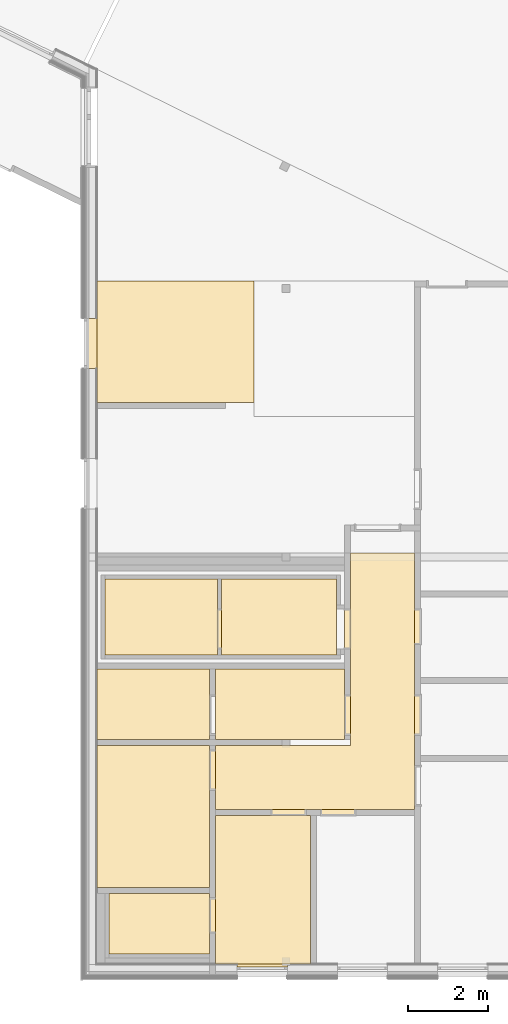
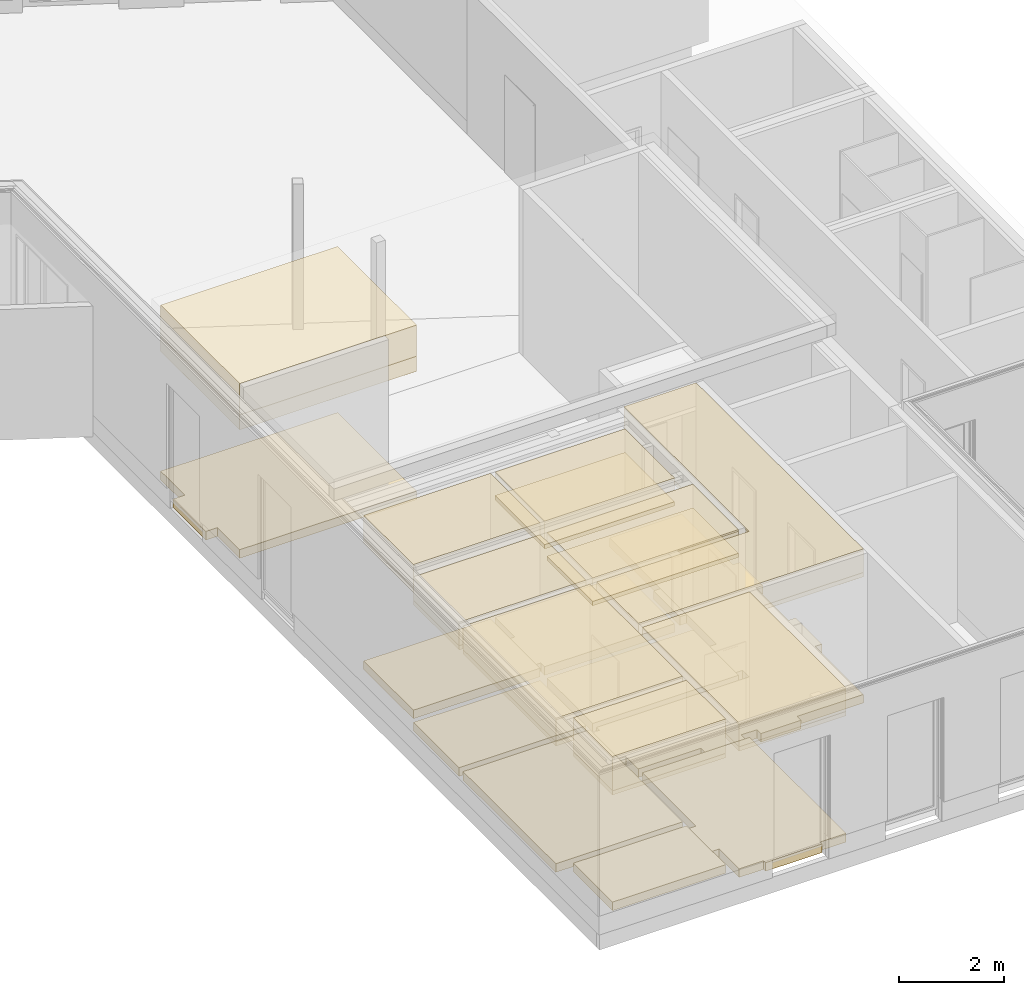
# One storey, part 21 of 23: 37 coverings.
"""IFC4 building model written with IfcOpenShell, lengths in metres."""

import ifcopenshell
import ifcopenshell.guid

model = None  # the IFC model being written
_history = None  # IfcOwnerHistory: only IFC2X3 demands one
_inside = {}  # id of a spatial element -> (the spatial element, [elements in it])
_under = {}  # id of a project, library or spatial element -> (it, [spatial elements below it])
_declared = {}  # id of a project -> (the project, [libraries it declares])
_typed = {}  # id of a type object -> (the type object, [elements of that type])
_made_of = {}  # id of a material, layer set ... -> (it, [elements and type objects made of it])


def new_model(schema):
    """Start an empty IFC model of exactly this schema.

    Asked for "IFC4X3", IfcOpenShell would pick the latest addendum, in which some entities
    have other attributes; the version numbers below select the first issue.
    IFC2X3 requires an IfcOwnerHistory on every rooted entity: one is made here for all.
    """
    global model, _history
    if schema == "IFC4X3":
        model = ifcopenshell.file(schema_version=(4, 3, 0, 0))
    else:
        model = ifcopenshell.file(schema=schema)
    _inside.clear()
    _under.clear()
    _declared.clear()
    _typed.clear()
    _made_of.clear()
    _history = None
    if model.schema == "IFC2X3":
        org = make("IfcOrganization", Name="unknown")
        user = make(
            "IfcPersonAndOrganization",
            ThePerson=make("IfcPerson", FamilyName="unknown"),
            TheOrganization=org,
        )
        app = make(
            "IfcApplication",
            ApplicationDeveloper=org,
            Version="unknown",
            ApplicationFullName="unknown",
            ApplicationIdentifier="unknown",
        )
        _history = make(
            "IfcOwnerHistory",
            OwningUser=user,
            OwningApplication=app,
            ChangeAction="ADDED",
            CreationDate=0,
        )
    return model


def make(cls, **values):
    """One entity of the class cls with the attributes given. An attribute that is None is left unset."""
    return model.create_entity(
        cls, **{name: value for name, value in values.items() if value is not None}
    )


def entity(cls, *values):
    """Any entity or typed value of the class cls, its attributes in the order of the schema. None: left unset."""
    e = model.create_entity(cls)
    for i, value in enumerate(values):
        if value is not None:
            e[i] = value
    return e


def rooted(cls, **values):
    """An entity with a GlobalId (a new one), such as an element, a storey or a relation."""
    return make(cls, GlobalId=ifcopenshell.guid.new(), OwnerHistory=_history, **values)


def si_unit(unit_type, name, prefix=None):
    """IfcSIUnit, for example si_unit("LENGTHUNIT", "METRE", prefix="MILLI")."""
    return make("IfcSIUnit", UnitType=unit_type, Prefix=prefix, Name=name)


def converted_unit(unit_type, name, factor, base, dimensions=None, offset=None):
    """IfcConversionBasedUnit, such as the inch: factor (a typed value) times the base unit."""
    return make(
        "IfcConversionBasedUnit"
        if offset is None
        else "IfcConversionBasedUnitWithOffset",
        ConversionOffset=offset,
        Dimensions=None
        if dimensions is None
        else entity("IfcDimensionalExponents", *dimensions),
        UnitType=unit_type,
        Name=name,
        ConversionFactor=make(
            "IfcMeasureWithUnit", ValueComponent=factor, UnitComponent=base
        ),
    )


def derived_unit(unit_type, elements):
    """IfcDerivedUnit: a product of units, each with its exponent."""
    return make(
        "IfcDerivedUnit",
        Elements=[
            make("IfcDerivedUnitElement", Unit=unit, Exponent=power)
            for unit, power in elements
        ],
        UnitType=unit_type,
    )


def assignment(units):
    """IfcUnitAssignment: the units of a project."""
    return None if units is None else make("IfcUnitAssignment", Units=units)


def point(xyz):
    """IfcCartesianPoint."""
    return None if xyz is None else make("IfcCartesianPoint", Coordinates=xyz)


def direction(xyz):
    """IfcDirection."""
    return None if xyz is None else make("IfcDirection", DirectionRatios=xyz)


def frame(location, z_axis=None, x_axis=None):
    """IfcAxis2Placement3D, a coordinate frame: its origin and axes. An axis left out is left unset."""
    return make(
        "IfcAxis2Placement3D",
        Location=point(location),
        Axis=direction(z_axis),
        RefDirection=direction(x_axis),
    )


def frame_2d(location, x_axis=None):
    """IfcAxis2Placement2D, a coordinate frame in the plane: its origin and x axis."""
    return make(
        "IfcAxis2Placement2D", Location=point(location), RefDirection=direction(x_axis)
    )


def origin():
    """The frame at (0, 0, 0) with its axes left unset."""
    return frame((0.0, 0.0, 0.0))


def origin_with_axes():
    """The frame at (0, 0, 0) with the z axis (0, 0, 1) and the x axis (1, 0, 0) written out."""
    return frame((0.0, 0.0, 0.0), z_axis=(0.0, 0.0, 1.0), x_axis=(1.0, 0.0, 0.0))


def place(relative_to, where):
    """IfcLocalPlacement: puts the frame where relative to a parent placement (None: the world)."""
    return make(
        "IfcLocalPlacement", PlacementRelTo=relative_to, RelativePlacement=where
    )


def context(
    kind, dimensions, precision=None, world=None, true_north=None, identifier=None
):
    """IfcGeometricRepresentationContext, for example the 3D "Model" context."""
    return make(
        "IfcGeometricRepresentationContext",
        ContextIdentifier=identifier,
        ContextType=kind,
        CoordinateSpaceDimension=dimensions,
        Precision=precision,
        WorldCoordinateSystem=world,
        TrueNorth=true_north,
    )


def subcontext(parent, identifier, kind, view, scale=None):
    """IfcGeometricRepresentationSubContext, for example "Body" below "Model"."""
    return make(
        "IfcGeometricRepresentationSubContext",
        ContextIdentifier=identifier,
        ContextType=kind,
        ParentContext=parent,
        TargetScale=scale,
        TargetView=view,
    )


def project(units=None, contexts=None):
    """IfcProject with its units and contexts."""
    return rooted(
        "IfcProject",
        Name="project",
        RepresentationContexts=contexts,
        UnitsInContext=assignment(units),
    )


def spatial(cls, under=None, at=None, **own):
    """A site, building, storey or space (cls), placed at a placement, below another one or the project."""
    s = rooted(cls, ObjectPlacement=at, **own)
    if under is not None:
        _under.setdefault(under.id(), (under, []))[1].append(s)
    return s


def polyline(points):
    """IfcPolyline through the points."""
    return make("IfcPolyline", Points=[point(p) for p in points])


def profile(cls, at=None, kind="AREA", **sizes):
    """A parametric profile (cls). Its sizes go by their IFC names, for example OverallWidth=200.0."""
    return make(cls, ProfileType=kind, Position=at, **sizes)


def rectangle(**sizes):
    """IfcRectangleProfileDef."""
    return profile("IfcRectangleProfileDef", **sizes)


def outline(outer, holes=None, kind="AREA"):
    """IfcArbitraryClosedProfileDef: a profile drawn as a closed curve; with holes, ...WithVoids."""
    if holes is None:
        return make("IfcArbitraryClosedProfileDef", ProfileType=kind, OuterCurve=outer)
    return make(
        "IfcArbitraryProfileDefWithVoids",
        ProfileType=kind,
        OuterCurve=outer,
        InnerCurves=holes,
    )


def extrude(swept, where, along, depth):
    """IfcExtrudedAreaSolid: the profile swept, set in the frame where, extruded along a direction by depth."""
    return make(
        "IfcExtrudedAreaSolid",
        SweptArea=swept,
        Position=where,
        ExtrudedDirection=direction(along),
        Depth=depth,
    )


def shape(context_of_items, identifier, shape_type, items):
    """IfcShapeRepresentation: the items that make up one representation, for example the "Body"."""
    return make(
        "IfcShapeRepresentation",
        ContextOfItems=context_of_items,
        RepresentationIdentifier=identifier,
        RepresentationType=shape_type,
        Items=items,
    )


def material(Name=None, Category=None):
    """IfcMaterial."""
    return make("IfcMaterial", Name=Name, Category=Category)


def layer(
    of_material, thickness, ventilated=None, Name=None, Category=None, Priority=None
):
    """IfcMaterialLayer: one layer of a wall or slab, of a material (None: an air gap)."""
    return make(
        "IfcMaterialLayer",
        Material=of_material,
        LayerThickness=thickness,
        IsVentilated=ventilated,
        Name=Name,
        Category=Category,
        Priority=Priority,
    )


def layer_set(layers, Name=None):
    """IfcMaterialLayerSet."""
    return make("IfcMaterialLayerSet", MaterialLayers=layers, LayerSetName=Name)


def layer_usage(for_layer_set, set_direction, sense, offset, extent=None):
    """IfcMaterialLayerSetUsage: how a layer set lies in its element."""
    return make(
        "IfcMaterialLayerSetUsage",
        ForLayerSet=for_layer_set,
        LayerSetDirection=set_direction,
        DirectionSense=sense,
        OffsetFromReferenceLine=offset,
        ReferenceExtent=extent,
    )


def made_of(thing, what):
    """Note that an element or type object is made of a material, layer set ...; save() writes the relation."""
    if what is not None:
        _made_of.setdefault(what.id(), (what, []))[1].append(thing)
    return thing


def element(
    cls,
    number,
    at=None,
    inside=None,
    cuts=None,
    type_object=None,
    material=None,
    context=None,
    identifier="Body",
    shape_type=None,
    held_by="IfcProductDefinitionShape",
    body=None,
    shapes=None,
    **own,
):
    """One element of the class cls, such as IfcWall. Its Tag is "e" and its number.

    at: its placement. inside: the storey or other place that contains it. cuts: it is an
    opening in that element (IfcRelVoidsElement). A single representation is given by context,
    identifier, shape_type and body (its items); several are given by shapes. held_by: the class
    of the entity that holds the representations. save() writes the other relations.
    """
    e = rooted(cls, Tag="e%d" % number, ObjectPlacement=at, **own)
    if body is not None:
        shapes = [shape(context, identifier, shape_type, body)]
    if shapes is not None:
        e.Representation = make(held_by, Representations=shapes)
    if inside is not None:
        _inside.setdefault(inside.id(), (inside, []))[1].append(e)
    if cuts is not None:
        rooted(
            "IfcRelVoidsElement", RelatingBuildingElement=cuts, RelatedOpeningElement=e
        )
    if type_object is not None:
        _typed.setdefault(type_object.id(), (type_object, []))[1].append(e)
    return made_of(e, material)


def aggregate(whole, parts):
    """IfcRelAggregates: a whole, such as a stair, and the parts it consists of."""
    return rooted("IfcRelAggregates", RelatingObject=whole, RelatedObjects=parts)


def save(model, path):
    """Write the relations noted so far, then the file.

    IfcRelAggregates (storeys below a building ...), IfcRelContainedInSpatialStructure (elements
    in a storey), IfcRelDefinesByType, IfcRelAssociatesMaterial and IfcRelDeclares: one each for
    every whole, place, type object, material and project.
    """
    for whole, parts in _under.values():
        aggregate(whole, parts)
    for where, things in _inside.values():
        rooted(
            "IfcRelContainedInSpatialStructure",
            RelatedElements=things,
            RelatingStructure=where,
        )
    for kind, things in _typed.values():
        rooted("IfcRelDefinesByType", RelatedObjects=things, RelatingType=kind)
    for what, things in _made_of.values():
        rooted("IfcRelAssociatesMaterial", RelatedObjects=things, RelatingMaterial=what)
    for by, libraries in _declared.values():
        rooted("IfcRelDeclares", RelatingContext=by, RelatedDefinitions=libraries)
    model.write(path)


model = new_model("IFC4")

# Units and contexts
model_context = context("Model", 3, precision=1e-05, world=origin())
body_context = subcontext(model_context, "Body", "Model", "MODEL_VIEW")
ifc_project = project(units=[si_unit("LENGTHUNIT", "METRE"), si_unit("AREAUNIT", "SQUARE_METRE"), si_unit("VOLUMEUNIT", "CUBIC_METRE"), si_unit("MASSUNIT", "GRAM", prefix="KILO"), converted_unit("PLANEANGLEUNIT", "DEGREE", entity("IfcPlaneAngleMeasure", 0.0174532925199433), si_unit("PLANEANGLEUNIT", "RADIAN"), dimensions=[0, 0, 0, 0, 0, 0, 0]), derived_unit("THERMALTRANSMITTANCEUNIT", [(si_unit("POWERUNIT", "WATT"), 1), (si_unit("THERMODYNAMICTEMPERATUREUNIT", "KELVIN"), -1), (si_unit("LENGTHUNIT", "METRE"), -2)]), derived_unit("VOLUMETRICFLOWRATEUNIT", [(si_unit("LENGTHUNIT", "METRE"), 3), (converted_unit("TIMEUNIT", "hour", entity("IfcTimeMeasure", 3600.0), si_unit("TIMEUNIT", "SECOND"), dimensions=[0, 0, 1, 0, 0, 0, 0]), -1), (si_unit("LENGTHUNIT", "METRE"), -1)])], contexts=[model_context])

# Site, building, storey, space
site_placement = place(None, origin())
site = spatial("IfcSite", under=ifc_project, at=site_placement, Name="Psychiatrie Neubau Wunstorf", CompositionType="ELEMENT")
building_placement = place(site_placement, origin())
building = spatial("IfcBuilding", under=site, at=building_placement, Name="Neubau H1 Sozialzentrum", CompositionType="ELEMENT")
storey_placement = place(building_placement, frame((0.0, 0.0, 0.7)))
storey = spatial("IfcBuildingStorey", under=building, at=storey_placement, Name="H1 Ebene 0", CompositionType="ELEMENT", Elevation=0.7)
space_1_placement = place(storey_placement, frame((-12.9120330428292, 8.11232452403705, -0.2)))
space_1 = spatial("IfcSpace", under=storey, at=space_1_placement, Name="WUN-H1-E00", CompositionType="ELEMENT")

# Coverings
ifc_material_1 = material()
ifc_layer_1 = layer(ifc_material_1, 0.036)
ifc_layer_set_1 = layer_set([ifc_layer_1])
ifc_layer_usage_1 = layer_usage(ifc_layer_set_1, "AXIS3", "POSITIVE", 0.0)
covering_1_placement = place(space_1_placement, frame((0.0, 8.80853868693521e-07, 3.6)))
element("IfcCovering", 1, at=covering_1_placement, inside=space_1, material=ifc_layer_usage_1, Name="Gipsfaserplatten 2-lagig (BSK)", PredefinedType="CEILING", context=body_context, shape_type="SweptSolid", body=[
    extrude(outline(polyline([(4.97050662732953, 6.39992085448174), (0.0, 6.39992085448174), (0.0, 4.79985911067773), (3.37237447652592, 4.79985911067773), (3.37237447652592, 0.0), (4.97050662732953, 0.0), (4.97050662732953, 6.39992085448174)])), frame((0.0, 6.39992085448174, 0.0), z_axis=(0.0, 0.0, -1.0), x_axis=(1.0, 0.0, 0.0)), (0.0, 0.0, 1.0), 0.036),
])
ifc_material_2 = material(Name="Installationshöhe")
ifc_layer_2 = layer(ifc_material_2, 0.514)
ifc_layer_set_2 = layer_set([ifc_layer_2])
ifc_layer_usage_2 = layer_usage(ifc_layer_set_2, "AXIS3", "POSITIVE", 0.0)
covering_2_placement = place(space_1_placement, frame((0.0, 8.80853868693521e-07, 3.564)))
element("IfcCovering", 2, at=covering_2_placement, inside=space_1, material=ifc_layer_usage_2, Name="Gipsfaserplatten 2-lagig (BSK)", PredefinedType="CEILING", context=body_context, shape_type="SweptSolid", body=[
    extrude(outline(polyline([(4.97050662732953, 6.39992085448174), (0.0, 6.39992085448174), (0.0, 4.79985911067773), (3.37237447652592, 4.79985911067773), (3.37237447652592, 0.0), (4.97050662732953, 0.0), (4.97050662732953, 6.39992085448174)])), frame((0.0, 6.39992085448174, 0.0), z_axis=(0.0, 0.0, -1.0), x_axis=(1.0, 0.0, 0.0)), (0.0, 0.0, 1.0), 0.514),
])
ifc_material_3 = material(Name="A1")
ifc_layer_3 = layer(ifc_material_3, 0.1)
ifc_layer_set_3 = layer_set([ifc_layer_3])
ifc_layer_usage_3 = layer_usage(ifc_layer_set_3, "AXIS3", "POSITIVE", 0.0)
covering_3_placement = place(space_1_placement, frame((0.0, 8.80853868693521e-07, 3.05)))
element("IfcCovering", 3, at=covering_3_placement, inside=space_1, material=ifc_layer_usage_3, Name="Gipsfaserplatten 2-lagig (BSK)", PredefinedType="CEILING", context=body_context, shape_type="SweptSolid", body=[
    extrude(outline(polyline([(4.97050662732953, 6.39992085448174), (0.0, 6.39992085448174), (0.0, 4.79985911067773), (3.37237447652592, 4.79985911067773), (3.37237447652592, 0.0), (4.97050662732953, 0.0), (4.97050662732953, 6.39992085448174)])), frame((0.0, 6.39992085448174, 0.0), z_axis=(0.0, 0.0, -1.0), x_axis=(1.0, 0.0, 0.0)), (0.0, 0.0, 1.0), 0.1),
])
ifc_material_4 = material(Name="D1")
ifc_layer_4 = layer(ifc_material_4, 0.001)
ifc_layer_set_4 = layer_set([ifc_layer_4])
ifc_layer_usage_4 = layer_usage(ifc_layer_set_4, "AXIS3", "POSITIVE", 0.0)
covering_4_placement = place(space_1_placement, frame((0.0, 8.80853868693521e-07, 2.95)))
element("IfcCovering", 4, at=covering_4_placement, inside=space_1, material=ifc_layer_usage_4, Name="Gipsfaserplatten 2-lagig (BSK)", PredefinedType="CEILING", context=body_context, shape_type="SweptSolid", body=[
    extrude(outline(polyline([(4.97050662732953, 6.39992085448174), (0.0, 6.39992085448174), (0.0, 4.79985911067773), (3.37237447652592, 4.79985911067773), (3.37237447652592, 0.0), (4.97050662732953, 0.0), (4.97050662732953, 6.39992085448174)])), frame((0.0, 6.39992085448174, 0.0), z_axis=(0.0, 0.0, -1.0), x_axis=(1.0, 0.0, 0.0)), (0.0, 0.0, 1.0), 0.001),
])
ifc_material_5 = material(Name="Ku2")
ifc_layer_5 = layer(ifc_material_5, 0.2)
ifc_layer_set_5 = layer_set([ifc_layer_5])
ifc_layer_usage_5 = layer_usage(ifc_layer_set_5, "AXIS3", "POSITIVE", 0.0)
covering_5_placement = place(space_1_placement, frame((-0.149999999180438, -0.149999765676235, 0.0)))
element("IfcCovering", 5, at=covering_5_placement, inside=space_1, material=ifc_layer_usage_5, Name="PVC Bahnenware Uni", PredefinedType="FLOORING", context=body_context, shape_type="SweptSolid", body=[
    extrude(rectangle(XDim=0.15, YDim=1.01000000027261, at=frame_2d((-0.0750000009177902, -0.505), x_axis=(-1.0, 1.81740081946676e-09))), frame((0.150000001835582, 1.64003196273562, 0.0), z_axis=(0.0, 0.0, 1.0), x_axis=(1.0, 0.0, 0.0)), (0.0, 0.0, 1.0), 0.2),
    extrude(rectangle(XDim=0.150000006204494, YDim=0.885, at=frame_2d((0.442500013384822, -0.0749999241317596), x_axis=(1.78464377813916e-07, -0.999999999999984))), frame((2.76753223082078, 0.150000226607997, 0.0), z_axis=(0.0, 0.0, 1.0), x_axis=(1.0, 0.0, 0.0)), (0.0, 0.0, 1.0), 0.2),
    extrude(rectangle(XDim=0.150000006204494, YDim=0.885, at=frame_2d((0.442500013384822, -0.0749999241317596), x_axis=(1.78464377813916e-07, -0.999999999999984))), frame((1.53253223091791, 0.150000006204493, 0.0), z_axis=(0.0, 0.0, 1.0), x_axis=(1.0, 0.0, 0.0)), (0.0, 0.0, 1.0), 0.2),
    extrude(rectangle(XDim=0.150000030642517, YDim=0.885000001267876, at=frame_2d((0.07499993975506, 0.442500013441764), x_axis=(0.999999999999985, 1.70771068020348e-07))), frame((5.12050690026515, 4.26196041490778, 0.0), z_axis=(0.0, 0.0, 1.0), x_axis=(1.0, 0.0, 0.0)), (0.0, 0.0, 1.0), 0.2),
    extrude(rectangle(XDim=0.150000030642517, YDim=1.01000000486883, at=frame_2d((0.0749999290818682, 0.505000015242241), x_axis=(0.999999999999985, 1.70771068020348e-07))), frame((5.12050728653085, 2.00006844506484, 0.0), z_axis=(0.0, 0.0, 1.0), x_axis=(1.0, 0.0, 0.0)), (0.0, 0.0, 1.0), 0.2),
    extrude(rectangle(XDim=0.149999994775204, YDim=1.01000000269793, at=frame_2d((0.0749998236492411, 0.505000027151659), x_axis=(0.999999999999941, 3.44036355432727e-07))), frame((3.37237604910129, 2.00006787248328, 0.0), z_axis=(0.0, 0.0, 1.0), x_axis=(1.0, 0.0, 0.0)), (0.0, 0.0, 1.0), 0.2),
    extrude(outline(polyline([(3.37237613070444, 1.60007018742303), (0.0, 1.60007018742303), (0.0, 0.0), (4.97050663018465, 8.87058364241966e-07), (4.97050641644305, 6.94992185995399), (3.37237431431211, 6.94992185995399), (3.37237613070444, 1.60007018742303)])), frame((0.149999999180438, 0.149999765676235, 0.0), z_axis=(0.0, 0.0, 1.0), x_axis=(1.0, 0.0, 0.0)), (0.0, 0.0, 1.0), 0.2),
])

# Space
space_2_placement = place(storey_placement, frame((-15.5625267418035, 4.51232136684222, -0.2)))
space_2 = spatial("IfcSpace", under=storey, at=space_2_placement, Name="WUN-H1-E00", CompositionType="ELEMENT")

# Coverings
ifc_material_6 = material(Name="Fl1")
ifc_layer_6 = layer(ifc_material_6, 0.2)
ifc_layer_set_6 = layer_set([ifc_layer_6])
ifc_layer_usage_6 = layer_usage(ifc_layer_set_6, "AXIS3", "POSITIVE", 0.0)
covering_6_placement = place(space_2_placement, origin())
element("IfcCovering", 6, at=covering_6_placement, inside=space_2, material=ifc_layer_usage_6, Name="Fliesen", PredefinedType="FLOORING", context=body_context, shape_type="SweptSolid", body=[
    extrude(rectangle(XDim=2.50049368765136, YDim=1.49999999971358, at=frame_2d((-1.25024681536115, -0.749999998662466), x_axis=(-1.0, 9.55268284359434e-10))), frame((2.50049368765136, 1.49999999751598, 0.0), z_axis=(0.0, 0.0, 1.0), x_axis=(1.0, 0.0, 0.0)), (0.0, 0.0, 1.0), 0.2),
])
ifc_material_7 = material()
ifc_layer_7 = layer(ifc_material_7, 0.036)
ifc_layer_set_7 = layer_set([ifc_layer_7])
ifc_layer_usage_7 = layer_usage(ifc_layer_set_7, "AXIS3", "POSITIVE", 0.0)
covering_7_placement = place(space_2_placement, frame((0.0, 0.0, 3.6)))
element("IfcCovering", 7, at=covering_7_placement, inside=space_2, material=ifc_layer_usage_7, Name="Gipsfaserplatten 2-lagig (BSK)", PredefinedType="CEILING", context=body_context, shape_type="SweptSolid", body=[
    extrude(rectangle(XDim=2.50049368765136, YDim=1.49999999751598, at=frame_2d((1.25024684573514, 0.74999999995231), x_axis=(1.0, 9.55268284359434e-10))), frame((0.0, 1.49999999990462, 0.0), z_axis=(0.0, 0.0, -1.0), x_axis=(1.0, 0.0, 0.0)), (0.0, 0.0, 1.0), 0.036),
])
ifc_material_8 = material(Name="Installationshöhe")
ifc_layer_8 = layer(ifc_material_8, 0.764)
ifc_layer_set_8 = layer_set([ifc_layer_8], Name="Reference")
ifc_layer_usage_8 = layer_usage(ifc_layer_set_8, "AXIS3", "POSITIVE", 0.0)
covering_8_placement = place(space_2_placement, frame((0.0, 0.0, 3.564)))
element("IfcCovering", 8, at=covering_8_placement, inside=space_2, material=ifc_layer_usage_8, Name="Gipsfaserplatten 2-lagig (BSK)", PredefinedType="CEILING", context=body_context, shape_type="SweptSolid", body=[
    extrude(rectangle(XDim=2.50049368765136, YDim=1.49999999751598, at=frame_2d((1.25024684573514, 0.74999999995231), x_axis=(1.0, 9.55268284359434e-10))), frame((0.0, 1.49999999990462, 0.0), z_axis=(0.0, 0.0, -1.0), x_axis=(1.0, 0.0, 0.0)), (0.0, 0.0, 1.0), 0.764),
])
ifc_material_9 = material(Name="E3")
ifc_layer_9 = layer(ifc_material_9, 0.1)
ifc_layer_set_9 = layer_set([ifc_layer_9])
ifc_layer_usage_9 = layer_usage(ifc_layer_set_9, "AXIS3", "POSITIVE", 0.0)
covering_9_placement = place(space_2_placement, frame((0.0, 0.0, 2.8)))
element("IfcCovering", 9, at=covering_9_placement, inside=space_2, material=ifc_layer_usage_9, Name="Rasterdecke", PredefinedType="CEILING", context=body_context, shape_type="SweptSolid", body=[
    extrude(rectangle(XDim=2.50049368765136, YDim=1.49999999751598, at=frame_2d((1.25024684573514, 0.74999999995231), x_axis=(1.0, 9.55268284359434e-10))), frame((0.0, 1.49999999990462, 0.0), z_axis=(0.0, 0.0, -1.0), x_axis=(1.0, 0.0, 0.0)), (0.0, 0.0, 1.0), 0.1),
])

# Space
space_3_placement = place(storey_placement, frame((-12.9120330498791, 4.26232136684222, -0.2)))
space_3 = spatial("IfcSpace", under=storey, at=space_3_placement, Name="WUN-H1-E00", CompositionType="ELEMENT")

# Coverings
ifc_material_10 = material(Name="Ku2")
ifc_layer_10 = layer(ifc_material_10, 0.2)
ifc_layer_set_10 = layer_set([ifc_layer_10])
ifc_layer_usage_10 = layer_usage(ifc_layer_set_10, "AXIS3", "POSITIVE", 0.0)
covering_10_placement = place(space_3_placement, frame((-0.149999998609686, -0.0750000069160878, 0.0)))
element("IfcCovering", 10, at=covering_10_placement, inside=space_3, material=ifc_layer_usage_10, Name="PVC Bahnenware Uni", PredefinedType="FLOORING", context=body_context, shape_type="SweptSolid", body=[
    extrude(rectangle(XDim=1.25, YDim=0.0750000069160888, at=frame_2d((-0.625, -0.0375000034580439), x_axis=(-1.0, 7.27595761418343e-16))), frame((1.94350652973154, 0.0750000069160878, 0.0), z_axis=(2.27373675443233e-17, 3.7895609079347e-16, 1.0), x_axis=(1.0, 0.0, 0.0)), (0.0, -3.7895609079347e-16, 1.0), 0.2),
    extrude(rectangle(XDim=0.15, YDim=0.885000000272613, at=frame_2d((-0.0750000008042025, -0.442500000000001), x_axis=(-1.0, 1.81740688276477e-09))), frame((0.150000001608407, 1.72499998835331, 0.0), z_axis=(0.0, 0.0, 1.0), x_axis=(1.0, 0.0, 0.0)), (0.0, 0.0, 1.0), 0.2),
    extrude(rectangle(XDim=3.70000314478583, YDim=2.36753226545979, at=frame_2d((1.18376612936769, -1.85000157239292), x_axis=(-1.81740582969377e-09, -1.0))), frame((0.150000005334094, 3.77500315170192, 0.0), z_axis=(0.0, 0.0, 1.0), x_axis=(1.0, 0.0, 0.0)), (0.0, 0.0, 1.0), 0.2),
])
ifc_material_11 = material()
ifc_layer_11 = layer(ifc_material_11, 0.036)
ifc_layer_set_11 = layer_set([ifc_layer_11])
ifc_layer_usage_11 = layer_usage(ifc_layer_set_11, "AXIS3", "POSITIVE", 0.0)
covering_11_placement = place(space_3_placement, frame((0.0, 0.0, 3.6)))
element("IfcCovering", 11, at=covering_11_placement, inside=space_3, material=ifc_layer_usage_11, Name="Gipsfaserplatten 2-lagig (BSK)", PredefinedType="CEILING", context=body_context, shape_type="SweptSolid", body=[
    extrude(rectangle(XDim=3.70000314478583, YDim=2.36753225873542, at=frame_2d((1.1837661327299, -1.850001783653), x_axis=(1.81740582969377e-09, -1.0))), frame((0.0, 0.0, 0.0), z_axis=(0.0, 0.0, -1.0), x_axis=(1.0, 0.0, 0.0)), (0.0, 0.0, 1.0), 0.036),
])
ifc_material_12 = material(Name="Installationshöhe")
ifc_layer_12 = layer(ifc_material_12, 0.514)
ifc_layer_set_12 = layer_set([ifc_layer_12], Name="Reference")
ifc_layer_usage_12 = layer_usage(ifc_layer_set_12, "AXIS3", "POSITIVE", 0.0)
covering_12_placement = place(space_3_placement, frame((0.0, 0.0, 3.564)))
element("IfcCovering", 12, at=covering_12_placement, inside=space_3, material=ifc_layer_usage_12, Name="Gipsfaserplatten 2-lagig (BSK)", PredefinedType="CEILING", context=body_context, shape_type="SweptSolid", body=[
    extrude(rectangle(XDim=3.70000314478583, YDim=2.36753225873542, at=frame_2d((1.1837661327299, -1.850001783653), x_axis=(1.81740582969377e-09, -1.0))), frame((0.0, 0.0, 0.0), z_axis=(0.0, 0.0, -1.0), x_axis=(1.0, 0.0, 0.0)), (0.0, 0.0, 1.0), 0.514),
])
ifc_material_13 = material(Name="E3")
ifc_layer_13 = layer(ifc_material_13, 0.1)
ifc_layer_set_13 = layer_set([ifc_layer_13])
ifc_layer_usage_13 = layer_usage(ifc_layer_set_13, "AXIS3", "POSITIVE", 0.0)
covering_13_placement = place(space_3_placement, frame((0.0, 0.0, 3.05)))
element("IfcCovering", 13, at=covering_13_placement, inside=space_3, material=ifc_layer_usage_13, Name="Rasterdecke", PredefinedType="CEILING", context=body_context, shape_type="SweptSolid", body=[
    extrude(rectangle(XDim=3.70000314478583, YDim=2.36753225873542, at=frame_2d((1.1837661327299, -1.850001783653), x_axis=(1.81740582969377e-09, -1.0))), frame((0.0, 0.0, 0.0), z_axis=(0.0, 0.0, -1.0), x_axis=(1.0, 0.0, 0.0)), (0.0, 0.0, 1.0), 0.1),
])

# Space
space_4_placement = place(storey_placement, frame((-15.8625266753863, 6.16232136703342, -0.2)))
space_4 = spatial("IfcSpace", under=storey, at=space_4_placement, Name="WUN-H1-E00", CompositionType="ELEMENT")

# Coverings
ifc_material_14 = material(Name="Ku2")
ifc_layer_14 = layer(ifc_material_14, 0.2)
ifc_layer_set_14 = layer_set([ifc_layer_14])
ifc_layer_usage_14 = layer_usage(ifc_layer_set_14, "AXIS3", "POSITIVE", 0.0)
covering_14_placement = place(space_4_placement, origin())
element("IfcCovering", 14, at=covering_14_placement, inside=space_4, material=ifc_layer_usage_14, Name="PVC Bahnenware Uni", PredefinedType="FLOORING", context=body_context, shape_type="SweptSolid", body=[
    extrude(rectangle(XDim=3.550073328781, YDim=2.80115730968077, at=frame_2d((1.40057865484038, -1.77503667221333), x_axis=(-5.12380797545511e-16, -1.0))), frame((0.0, 3.55007334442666, 0.0), z_axis=(0.0, 0.0, 1.0), x_axis=(1.0, 0.0, 0.0)), (0.0, 0.0, 1.0), 0.2),
])
ifc_material_15 = material()
ifc_layer_15 = layer(ifc_material_15, 0.036)
ifc_layer_set_15 = layer_set([ifc_layer_15])
ifc_layer_usage_15 = layer_usage(ifc_layer_set_15, "AXIS3", "POSITIVE", 0.0)
covering_15_placement = place(space_4_placement, frame((0.0, 0.0, 3.6)))
element("IfcCovering", 15, at=covering_15_placement, inside=space_4, material=ifc_layer_usage_15, Name="Gipsfaserplatten 2-lagig (BSK)", PredefinedType="CEILING", context=body_context, shape_type="SweptSolid", body=[
    extrude(rectangle(XDim=3.550073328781, YDim=2.80115730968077, at=frame_2d((1.40057865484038, -1.7750366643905), x_axis=(5.12380797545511e-16, -1.0))), frame((0.0, 1.56456599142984e-08, 0.0), z_axis=(0.0, 0.0, -1.0), x_axis=(1.0, 0.0, 0.0)), (0.0, 0.0, 1.0), 0.036),
])
ifc_material_16 = material(Name="Installationshöhe")
ifc_layer_16 = layer(ifc_material_16, 0.514)
ifc_layer_set_16 = layer_set([ifc_layer_16], Name="Reference")
ifc_layer_usage_16 = layer_usage(ifc_layer_set_16, "AXIS3", "POSITIVE", 0.0)
covering_16_placement = place(space_4_placement, frame((0.0, 0.0, 3.564)))
element("IfcCovering", 16, at=covering_16_placement, inside=space_4, material=ifc_layer_usage_16, Name="Gipsfaserplatten 2-lagig (BSK)", PredefinedType="CEILING", context=body_context, shape_type="SweptSolid", body=[
    extrude(rectangle(XDim=3.550073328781, YDim=2.80115730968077, at=frame_2d((1.40057865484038, -1.7750366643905), x_axis=(5.12380797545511e-16, -1.0))), frame((0.0, 1.56456599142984e-08, 0.0), z_axis=(0.0, 0.0, -1.0), x_axis=(1.0, 0.0, 0.0)), (0.0, 0.0, 1.0), 0.514),
])
ifc_material_17 = material(Name="E3")
ifc_layer_17 = layer(ifc_material_17, 0.1)
ifc_layer_set_17 = layer_set([ifc_layer_17])
ifc_layer_usage_17 = layer_usage(ifc_layer_set_17, "AXIS3", "POSITIVE", 0.0)
covering_17_placement = place(space_4_placement, frame((0.0, 0.0, 3.05)))
element("IfcCovering", 17, at=covering_17_placement, inside=space_4, material=ifc_layer_usage_17, Name="Rasterdecke", PredefinedType="CEILING", context=body_context, shape_type="SweptSolid", body=[
    extrude(rectangle(XDim=3.550073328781, YDim=2.80115730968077, at=frame_2d((1.40057865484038, -1.7750366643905), x_axis=(5.12380797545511e-16, -1.0))), frame((0.0, 1.56456599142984e-08, 0.0), z_axis=(0.0, 0.0, -1.0), x_axis=(1.0, 0.0, 0.0)), (0.0, 0.0, 1.0), 0.1),
])

# Space
space_5_placement = place(storey_placement, frame((-15.8625266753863, 9.86239268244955, -0.2)))
space_5 = spatial("IfcSpace", under=storey, at=space_5_placement, Name="WUN-H1-E00", CompositionType="ELEMENT")

# Coverings
ifc_material_18 = material(Name="Ku2")
ifc_layer_18 = layer(ifc_material_18, 0.2)
ifc_layer_set_18 = layer_set([ifc_layer_18])
ifc_layer_usage_18 = layer_usage(ifc_layer_set_18, "AXIS3", "POSITIVE", 0.0)
covering_18_placement = place(space_5_placement, origin())
element("IfcCovering", 18, at=covering_18_placement, inside=space_5, material=ifc_layer_usage_18, Name="PVC Bahnenware Uni", PredefinedType="FLOORING", context=body_context, shape_type="SweptSolid", body=[
    extrude(rectangle(XDim=1.74996953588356, YDim=2.80115731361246, at=frame_2d((1.40057865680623, -0.87498476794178), x_axis=(0.0, -1.0))), frame((0.0, 1.74996953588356, 0.0), z_axis=(0.0, 0.0, 1.0), x_axis=(1.0, 0.0, 0.0)), (0.0, 0.0, 1.0), 0.2),
])
ifc_material_19 = material()
ifc_layer_19 = layer(ifc_material_19, 0.036)
ifc_layer_set_19 = layer_set([ifc_layer_19])
ifc_layer_usage_19 = layer_usage(ifc_layer_set_19, "AXIS3", "POSITIVE", 0.0)
covering_19_placement = place(space_5_placement, frame((0.0, 0.0, 3.6)))
element("IfcCovering", 19, at=covering_19_placement, inside=space_5, material=ifc_layer_usage_19, Name="Gipsfaserplatten 2-lagig (BSK)", PredefinedType="CEILING", context=body_context, shape_type="SweptSolid", body=[
    extrude(rectangle(XDim=1.74996953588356, YDim=2.80115731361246, at=frame_2d((1.40057865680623, -0.87498476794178), x_axis=(0.0, -1.0))), frame((0.0, 0.0, 0.0), z_axis=(0.0, 0.0, -1.0), x_axis=(1.0, 0.0, 0.0)), (0.0, 0.0, 1.0), 0.036),
])
ifc_material_20 = material(Name="Installationshöhe")
ifc_layer_20 = layer(ifc_material_20, 0.514)
ifc_layer_set_20 = layer_set([ifc_layer_20], Name="Reference")
ifc_layer_usage_20 = layer_usage(ifc_layer_set_20, "AXIS3", "POSITIVE", 0.0)
covering_20_placement = place(space_5_placement, frame((0.0, 0.0, 3.564)))
element("IfcCovering", 20, at=covering_20_placement, inside=space_5, material=ifc_layer_usage_20, Name="Gipsfaserplatten 2-lagig (BSK)", PredefinedType="CEILING", context=body_context, shape_type="SweptSolid", body=[
    extrude(rectangle(XDim=1.74996953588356, YDim=2.80115731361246, at=frame_2d((1.40057865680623, -0.87498476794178), x_axis=(0.0, -1.0))), frame((0.0, 0.0, 0.0), z_axis=(0.0, 0.0, -1.0), x_axis=(1.0, 0.0, 0.0)), (0.0, 0.0, 1.0), 0.514),
])
ifc_material_21 = material(Name="E3")
ifc_layer_21 = layer(ifc_material_21, 0.1)
ifc_layer_set_21 = layer_set([ifc_layer_21])
ifc_layer_usage_21 = layer_usage(ifc_layer_set_21, "AXIS3", "POSITIVE", 0.0)
covering_21_placement = place(space_5_placement, frame((0.0, 0.0, 3.05)))
element("IfcCovering", 21, at=covering_21_placement, inside=space_5, material=ifc_layer_usage_21, Name="Rasterdecke", PredefinedType="CEILING", context=body_context, shape_type="SweptSolid", body=[
    extrude(rectangle(XDim=1.74996953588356, YDim=2.80115731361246, at=frame_2d((1.40057865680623, -0.87498476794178), x_axis=(0.0, -1.0))), frame((0.0, 0.0, 0.0), z_axis=(0.0, 0.0, -1.0), x_axis=(1.0, 0.0, 0.0)), (0.0, 0.0, 1.0), 0.1),
])

# Space
space_6_placement = place(storey_placement, frame((-12.9120330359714, 9.86239268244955, -0.2)))
space_6 = spatial("IfcSpace", under=storey, at=space_6_placement, Name="WUN-H1-E00", CompositionType="ELEMENT")

# Coverings
ifc_material_22 = material(Name="Ku2")
ifc_layer_22 = layer(ifc_material_22, 0.2)
ifc_layer_set_22 = layer_set([ifc_layer_22])
ifc_layer_usage_22 = layer_usage(ifc_layer_set_22, "AXIS3", "POSITIVE", 0.0)
covering_22_placement = place(space_6_placement, origin())
element("IfcCovering", 22, at=covering_22_placement, inside=space_6, material=ifc_layer_usage_22, Name="PVC Bahnenware Uni", PredefinedType="FLOORING", context=body_context, shape_type="SweptSolid", body=[
    extrude(rectangle(XDim=3.22237547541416, YDim=1.74996780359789, at=frame_2d((-1.61118773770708, -0.874983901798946), x_axis=(-1.0, 0.0))), frame((3.22237547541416, 1.74996780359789, 0.0), z_axis=(0.0, 0.0, 1.0), x_axis=(1.0, 0.0, 0.0)), (0.0, 0.0, 1.0), 0.2),
])
ifc_material_23 = material()
ifc_layer_23 = layer(ifc_material_23, 0.036)
ifc_layer_set_23 = layer_set([ifc_layer_23])
ifc_layer_usage_23 = layer_usage(ifc_layer_set_23, "AXIS3", "POSITIVE", 0.0)
covering_23_placement = place(space_6_placement, frame((0.0, 0.0, 3.6)))
element("IfcCovering", 23, at=covering_23_placement, inside=space_6, material=ifc_layer_usage_23, Name="Gipsfaserplatten 2-lagig (BSK)", PredefinedType="CEILING", context=body_context, shape_type="SweptSolid", body=[
    extrude(rectangle(XDim=3.22237547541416, YDim=1.74996780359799, at=frame_2d((1.6111880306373, 0.874983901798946), x_axis=(1.0, 0.0))), frame((0.0, 1.74996780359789, 0.0), z_axis=(0.0, 0.0, -1.0), x_axis=(1.0, 0.0, 0.0)), (0.0, 0.0, 1.0), 0.036),
])
ifc_material_24 = material(Name="Installationshöhe")
ifc_layer_24 = layer(ifc_material_24, 0.514)
ifc_layer_set_24 = layer_set([ifc_layer_24], Name="Reference")
ifc_layer_usage_24 = layer_usage(ifc_layer_set_24, "AXIS3", "POSITIVE", 0.0)
covering_24_placement = place(space_6_placement, frame((0.0, 0.0, 3.564)))
element("IfcCovering", 24, at=covering_24_placement, inside=space_6, material=ifc_layer_usage_24, Name="Gipsfaserplatten 2-lagig (BSK)", PredefinedType="CEILING", context=body_context, shape_type="SweptSolid", body=[
    extrude(rectangle(XDim=3.22237547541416, YDim=1.74996780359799, at=frame_2d((1.6111880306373, 0.874983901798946), x_axis=(1.0, 0.0))), frame((0.0, 1.74996780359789, 0.0), z_axis=(0.0, 0.0, -1.0), x_axis=(1.0, 0.0, 0.0)), (0.0, 0.0, 1.0), 0.514),
])
ifc_material_25 = material(Name="E3")
ifc_layer_25 = layer(ifc_material_25, 0.1)
ifc_layer_set_25 = layer_set([ifc_layer_25])
ifc_layer_usage_25 = layer_usage(ifc_layer_set_25, "AXIS3", "POSITIVE", 0.0)
covering_25_placement = place(space_6_placement, frame((0.0, 0.0, 3.05)))
element("IfcCovering", 25, at=covering_25_placement, inside=space_6, material=ifc_layer_usage_25, Name="Rasterdecke", PredefinedType="CEILING", context=body_context, shape_type="SweptSolid", body=[
    extrude(rectangle(XDim=3.22237547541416, YDim=1.74996780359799, at=frame_2d((1.6111880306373, 0.874983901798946), x_axis=(1.0, 0.0))), frame((0.0, 1.74996780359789, 0.0), z_axis=(0.0, 0.0, -1.0), x_axis=(1.0, 0.0, 0.0)), (0.0, 0.0, 1.0), 0.1),
])

# Space
space_7_placement = place(storey_placement, frame((-15.8625266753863, 18.259180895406, -0.2)))
space_7 = spatial("IfcSpace", under=storey, at=space_7_placement, Name="WUN-H1-E00", CompositionType="ELEMENT")

# Coverings
ifc_material_26 = material(Name="Fl12")
ifc_layer_26 = layer(ifc_material_26, 0.2)
ifc_layer_set_26 = layer_set([ifc_layer_26])
ifc_layer_usage_26 = layer_usage(ifc_layer_set_26, "AXIS3", "POSITIVE", 0.0)
covering_26_placement = place(space_7_placement, frame((-0.256998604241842, 0.0, 0.0)))
element("IfcCovering", 26, at=covering_26_placement, inside=space_7, material=ifc_layer_usage_26, Name="Fliesen Großformat", PredefinedType="FLOORING", context=body_context, shape_type="SweptSolid", body=[
    extrude(rectangle(XDim=0.256998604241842, YDim=1.25, at=frame_2d((-0.128499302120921, -0.625), x_axis=(-1.0, 0.0))), frame((0.256998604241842, 2.10114032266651, 0.0), z_axis=(0.0, 0.0, 1.0), x_axis=(1.0, 0.0, 0.0)), (0.0, 0.0, 1.0), 0.2),
    extrude(rectangle(XDim=3.90899960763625, YDim=3.02906542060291, at=frame_2d((1.95449980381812, 1.51453271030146), x_axis=(1.0, 0.0))), frame((0.256998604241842, 0.0, 0.0), z_axis=(0.0, 0.0, 1.0), x_axis=(1.0, 0.0, 0.0)), (0.0, 0.0, 1.0), 0.2),
])
ifc_material_27 = material(Name="Installationshöhe")
ifc_layer_27 = layer(ifc_material_27, 0.73)
ifc_layer_set_27 = layer_set([ifc_layer_27])
ifc_layer_usage_27 = layer_usage(ifc_layer_set_27, "AXIS3", "POSITIVE", 0.0)
covering_27_placement = place(space_7_placement, frame((0.0, 0.0, 4.08)))
element("IfcCovering", 27, at=covering_27_placement, inside=space_7, material=ifc_layer_usage_27, Name="a-sh Deckenbelag", PredefinedType="CEILING", context=body_context, shape_type="SweptSolid", body=[
    extrude(rectangle(XDim=3.90899960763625, YDim=3.02906542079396, at=frame_2d((-1.95449980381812, -1.51453271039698), x_axis=(-1.0, 0.0))), frame((3.90899960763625, 0.0, 0.0), z_axis=(0.0, 0.0, -1.0), x_axis=(1.0, 0.0, 0.0)), (0.0, 0.0, 1.0), 0.73),
])
ifc_material_28 = material(Name="A")
ifc_layer_28 = layer(ifc_material_28, 0.35)
ifc_layer_set_28 = layer_set([ifc_layer_28], Name="Reference")
ifc_layer_usage_28 = layer_usage(ifc_layer_set_28, "AXIS3", "POSITIVE", 0.0)
covering_28_placement = place(space_7_placement, frame((0.0, 0.0, 3.35)))
element("IfcCovering", 28, at=covering_28_placement, inside=space_7, material=ifc_layer_usage_28, Name="a-sh Deckenbelag", PredefinedType="CEILING", context=body_context, shape_type="SweptSolid", body=[
    extrude(rectangle(XDim=3.90899960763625, YDim=3.02906542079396, at=frame_2d((-1.95449980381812, -1.51453271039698), x_axis=(-1.0, 0.0))), frame((3.90899960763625, 0.0, 0.0), z_axis=(0.0, 0.0, -1.0), x_axis=(1.0, 0.0, 0.0)), (0.0, 0.0, 1.0), 0.35),
])
ifc_material_29 = material(Name="-")
ifc_layer_29 = layer(ifc_material_29, 0.001)
ifc_layer_set_29 = layer_set([ifc_layer_29])
ifc_layer_usage_29 = layer_usage(ifc_layer_set_29, "AXIS3", "POSITIVE", 0.0)
covering_29_placement = place(space_7_placement, frame((0.0, 0.0, 3.0)))
element("IfcCovering", 29, at=covering_29_placement, inside=space_7, material=ifc_layer_usage_29, Name="a-sh Deckenbelag", PredefinedType="CEILING", context=body_context, shape_type="SweptSolid", body=[
    extrude(rectangle(XDim=3.90899960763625, YDim=3.02906542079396, at=frame_2d((-1.95449980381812, -1.51453271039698), x_axis=(-1.0, 0.0))), frame((3.90899960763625, 0.0, 0.0), z_axis=(0.0, 0.0, -1.0), x_axis=(1.0, 0.0, 0.0)), (0.0, 0.0, 1.0), 0.001),
])

# Space
space_8_placement = place(storey_placement, frame((-12.7626280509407, 11.7623213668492, -0.2)))
space_8 = spatial("IfcSpace", under=storey, at=space_8_placement, Name="WUN-H1-E00", CompositionType="ELEMENT")

# Coverings
ifc_material_30 = material(Name="Ku2")
ifc_layer_30 = layer(ifc_material_30, 0.2)
ifc_layer_set_30 = layer_set([ifc_layer_30])
ifc_layer_usage_30 = layer_usage(ifc_layer_set_30, "AXIS3", "POSITIVE", 0.0)
covering_30_placement = place(space_8_placement, frame((-0.0999986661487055, 0.199999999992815, 0.0)))
element("IfcCovering", 30, at=covering_30_placement, inside=space_8, material=ifc_layer_usage_30, Name="PVC Bahnenware Uni", PredefinedType="FLOORING", context=body_context, shape_type="SweptSolid", body=[
    extrude(rectangle(XDim=0.1, YDim=1.0, at=frame_2d((-0.05, -0.5), x_axis=(-1.0, 0.0))), frame((0.1, 1.14696378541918, 0.0), z_axis=(0.0, 0.0, 1.0), x_axis=(1.0, 0.0, 0.0)), (0.0, 0.0, 1.0), 0.2),
    extrude(outline(polyline([(2.87297086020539, 0.0), (2.87297086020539, 1.89991577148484), (0.0, 1.89991577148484), (1.33385129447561e-06, 0.0), (2.87297086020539, 0.0)])), frame((0.0999986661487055, 0.0, 0.0), z_axis=(0.0, 0.0, 1.0), x_axis=(1.0, 0.0, 0.0)), (0.0, 0.0, 1.0), 0.2),
    extrude(rectangle(XDim=0.149999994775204, YDim=1.00000001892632, at=frame_2d((0.0749998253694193, 0.500000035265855), x_axis=(0.999999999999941, 3.4403634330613e-07))), frame((3.17296898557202, 0.146963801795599, 0.0), z_axis=(0.0, 0.0, 1.0), x_axis=(1.0, 0.0, 0.0)), (0.0, 0.0, 1.0), 0.2),
])
ifc_material_31 = material()
ifc_layer_31 = layer(ifc_material_31, 0.036)
ifc_layer_set_31 = layer_set([ifc_layer_31])
ifc_layer_usage_31 = layer_usage(ifc_layer_set_31, "AXIS3", "POSITIVE", 0.0)
covering_31_placement = place(space_8_placement, frame((0.0, 0.0, 3.6)))
element("IfcCovering", 31, at=covering_31_placement, inside=space_8, material=ifc_layer_usage_31, Name="Gipsfaserplatten 2-lagig (BSK)", PredefinedType="CEILING", context=body_context, shape_type="SweptSolid", body=[
    extrude(rectangle(XDim=2.8729695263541, YDim=1.89991577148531, at=frame_2d((-1.4364854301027, -0.94995788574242), x_axis=(-1.0, 0.0))), frame((2.87297086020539, 0.199999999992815, 0.0), z_axis=(0.0, 0.0, -1.0), x_axis=(1.0, 0.0, 0.0)), (0.0, 0.0, 1.0), 0.036),
])
ifc_material_32 = material(Name="Installationshöhe")
ifc_layer_32 = layer(ifc_material_32, 0.514)
ifc_layer_set_32 = layer_set([ifc_layer_32], Name="Reference")
ifc_layer_usage_32 = layer_usage(ifc_layer_set_32, "AXIS3", "POSITIVE", 0.0)
covering_32_placement = place(space_8_placement, frame((0.0, 0.0, 3.564)))
element("IfcCovering", 32, at=covering_32_placement, inside=space_8, material=ifc_layer_usage_32, Name="Gipsfaserplatten 2-lagig (BSK)", PredefinedType="CEILING", context=body_context, shape_type="SweptSolid", body=[
    extrude(rectangle(XDim=2.8729695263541, YDim=1.89991577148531, at=frame_2d((-1.4364854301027, -0.94995788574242), x_axis=(-1.0, 0.0))), frame((2.87297086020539, 0.199999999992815, 0.0), z_axis=(0.0, 0.0, -1.0), x_axis=(1.0, 0.0, 0.0)), (0.0, 0.0, 1.0), 0.514),
])
ifc_material_33 = material(Name="E3")
ifc_layer_33 = layer(ifc_material_33, 0.1)
ifc_layer_set_33 = layer_set([ifc_layer_33])
ifc_layer_usage_33 = layer_usage(ifc_layer_set_33, "AXIS3", "POSITIVE", 0.0)
covering_33_placement = place(space_8_placement, frame((0.0, 0.0, 3.05)))
element("IfcCovering", 33, at=covering_33_placement, inside=space_8, material=ifc_layer_usage_33, Name="Rasterdecke", PredefinedType="CEILING", context=body_context, shape_type="SweptSolid", body=[
    extrude(rectangle(XDim=2.8729695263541, YDim=1.89991577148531, at=frame_2d((-1.4364854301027, -0.94995788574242), x_axis=(-1.0, 0.0))), frame((2.87297086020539, 0.199999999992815, 0.0), z_axis=(0.0, 0.0, -1.0), x_axis=(1.0, 0.0, 0.0)), (0.0, 0.0, 1.0), 0.1),
])

# Space
space_9_placement = place(storey_placement, frame((-15.662521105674, 11.9623213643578, -0.2)))
space_9 = spatial("IfcSpace", under=storey, at=space_9_placement, Name="WUN-H1-E00", CompositionType="ELEMENT")

# Coverings
ifc_material_34 = material(Name="Ku2")
ifc_layer_34 = layer(ifc_material_34, 0.2)
ifc_layer_set_34 = layer_set([ifc_layer_34])
ifc_layer_usage_34 = layer_usage(ifc_layer_set_34, "AXIS3", "POSITIVE", 0.0)
covering_34_placement = place(space_9_placement, origin())
element("IfcCovering", 34, at=covering_34_placement, inside=space_9, material=ifc_layer_usage_34, Name="PVC Bahnenware Uni", PredefinedType="FLOORING", context=body_context, shape_type="SweptSolid", body=[
    extrude(outline(polyline([(0.0, 1.89991577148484), (0.0, 0.0), (2.79988936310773, 0.0), (2.79988802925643, 1.89991577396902), (0.0, 1.89991577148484)])), origin_with_axes(), (0.0, 0.0, 1.0), 0.2),
])
ifc_material_35 = material()
ifc_layer_35 = layer(ifc_material_35, 0.036)
ifc_layer_set_35 = layer_set([ifc_layer_35])
ifc_layer_usage_35 = layer_usage(ifc_layer_set_35, "AXIS3", "POSITIVE", 0.0)
covering_35_placement = place(space_9_placement, frame((0.0, 0.0, 3.6)))
element("IfcCovering", 35, at=covering_35_placement, inside=space_9, material=ifc_layer_usage_35, Name="Gipsfaserplatten 2-lagig (BSK)", PredefinedType="CEILING", context=body_context, shape_type="SweptSolid", body=[
    extrude(outline(polyline([(0.0, 1.89991577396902), (0.0, 0.0), (2.79988802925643, 0.0), (2.79988936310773, 1.89991577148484), (0.0, 1.89991577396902)])), frame((0.0, 1.89991577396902, 0.0), z_axis=(0.0, 0.0, -1.0), x_axis=(1.0, 0.0, 0.0)), (0.0, 0.0, 1.0), 0.036),
])
ifc_material_36 = material(Name="Installationshöhe")
ifc_layer_36 = layer(ifc_material_36, 0.514)
ifc_layer_set_36 = layer_set([ifc_layer_36], Name="Reference")
ifc_layer_usage_36 = layer_usage(ifc_layer_set_36, "AXIS3", "POSITIVE", 0.0)
covering_36_placement = place(space_9_placement, frame((0.0, 0.0, 3.564)))
element("IfcCovering", 36, at=covering_36_placement, inside=space_9, material=ifc_layer_usage_36, Name="Gipsfaserplatten 2-lagig (BSK)", PredefinedType="CEILING", context=body_context, shape_type="SweptSolid", body=[
    extrude(outline(polyline([(0.0, 1.89991577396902), (0.0, 0.0), (2.79988802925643, 0.0), (2.79988936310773, 1.89991577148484), (0.0, 1.89991577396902)])), frame((0.0, 1.89991577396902, 0.0), z_axis=(0.0, 0.0, -1.0), x_axis=(1.0, 0.0, 0.0)), (0.0, 0.0, 1.0), 0.514),
])
ifc_material_37 = material(Name="E3")
ifc_layer_37 = layer(ifc_material_37, 0.1)
ifc_layer_set_37 = layer_set([ifc_layer_37])
ifc_layer_usage_37 = layer_usage(ifc_layer_set_37, "AXIS3", "POSITIVE", 0.0)
covering_37_placement = place(space_9_placement, frame((0.0, 0.0, 3.05)))
element("IfcCovering", 37, at=covering_37_placement, inside=space_9, material=ifc_layer_usage_37, Name="Rasterdecke", PredefinedType="CEILING", context=body_context, shape_type="SweptSolid", body=[
    extrude(outline(polyline([(0.0, 1.89991577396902), (0.0, 0.0), (2.79988802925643, 0.0), (2.79988936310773, 1.89991577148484), (0.0, 1.89991577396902)])), frame((0.0, 1.89991577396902, 0.0), z_axis=(0.0, 0.0, -1.0), x_axis=(1.0, 0.0, 0.0)), (0.0, 0.0, 1.0), 0.1),
])

save(model, "model.ifc")
